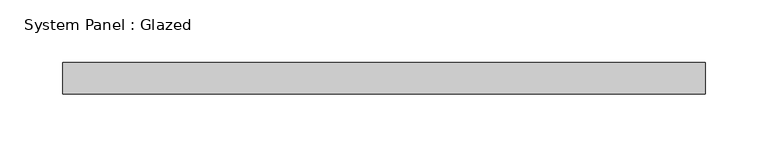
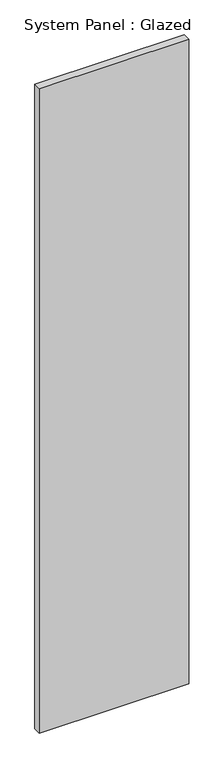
"""IFC4 building model written with IfcOpenShell, lengths in millimetres: plate geometry, System Panel : Glazed."""

from ifc_helpers import new_model, si_unit, origin, origin_with_axes, place, context, project, spatial, polyline, outline, extrude, source, transform, mapped, element, save


def system_panel_glazed_0abf4587(model_context):
    return source(origin(), model_context, "Body", "SweptSolid", [
        extrude(outline(polyline([(257.175, -44.45), (-257.175, -44.45), (-257.175, -19.05), (257.175, -19.05), (257.175, -44.45)])), origin_with_axes(), (0.0, 0.0, 1.0), 2343.15),
    ])


if __name__ == "__main__":
    model = new_model("IFC4")
    model_context = context("Model", 3, world=origin())
    ifc_project = project(units=[si_unit("LENGTHUNIT", "METRE", prefix="MILLI")], contexts=[model_context])
    site = spatial("IfcSite", under=ifc_project)
    building = spatial("IfcBuilding", under=site)
    placement = place(None, origin())
    system_panel_glazed_shape = system_panel_glazed_0abf4587(model_context)
    element("IfcPlate", 1, ObjectType="System Panel : Glazed", at=placement, inside=building, context=model_context, shape_type="MappedRepresentation", body=[
        mapped(system_panel_glazed_shape, transform((0.0, 0.0, 0.0), x_axis=(1.0, 0.0, 0.0), y_axis=(0.0, 1.0, 0.0), z_axis=(0.0, 0.0, 1.0))),
    ])
    save(model, "model.ifc")
